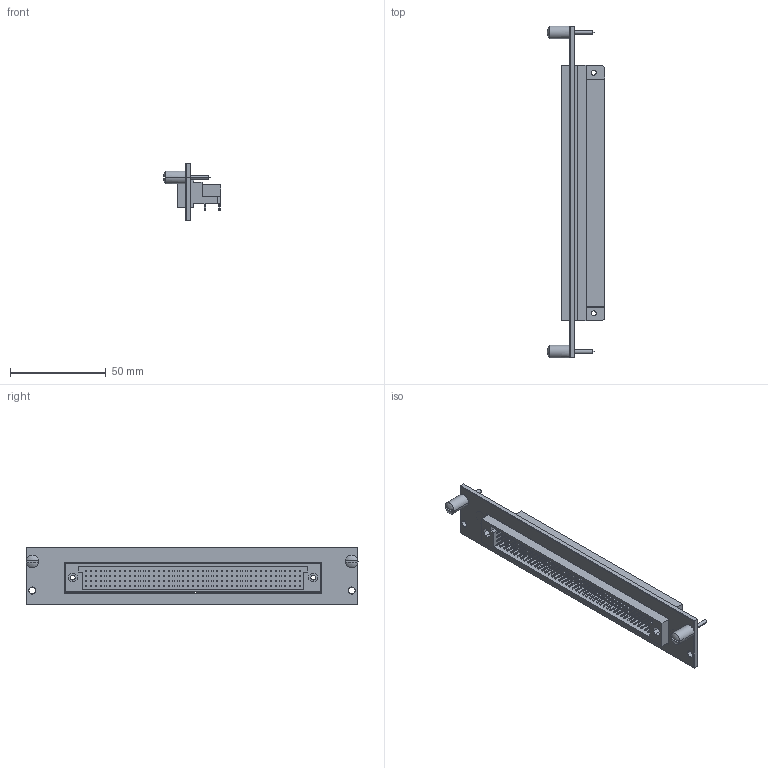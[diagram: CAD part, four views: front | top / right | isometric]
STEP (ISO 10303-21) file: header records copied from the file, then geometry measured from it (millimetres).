
FILE_DESCRIPTION((''),'2;1');
FILE_NAME('CU_SCXI-1129','2009-12-04T',('jjorden'),(''),'PRO/ENGINEER BY PARAMETRIC TECHNOLOGY CORPORATION, 2006080','PRO/ENGINEER BY PARAMETRIC TECHNOLOGY CORPORATION, 2006080','');
FILE_SCHEMA(('CONFIG_CONTROL_DESIGN'));
Length unit declared in the file: inch
Products named in the file (1): CU_SCXI-1129
Bounding box: 29.98 x 173.51 x 30.18 mm (x, y, z)
Volume: 33636.9 mm3; surface area: 24533.4 mm2
Topology: 2 solids, 2 shells, 1041 faces, 2520 edges, 1670 vertices
Faces by surface type: plane 981, cylinder 48, cone 8, sphere 4
Entity records: 29895 total; most frequent: CARTESIAN_POINT 5278, ORIENTED_EDGE 5032, DIRECTION 4702, EDGE_CURVE 2516, VECTOR 2396, LINE 2396, VERTEX_POINT 1670, EDGE_LOOP 1250
